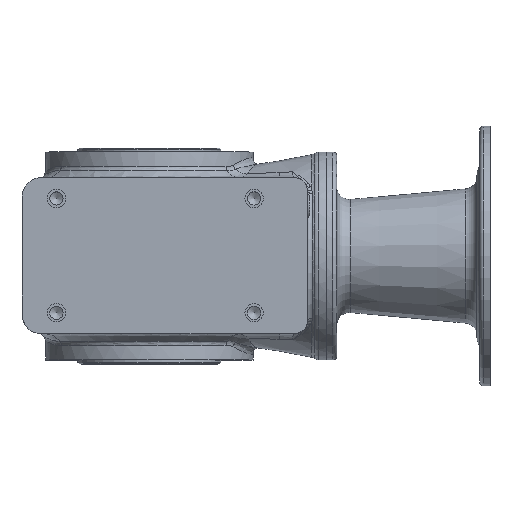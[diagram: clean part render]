
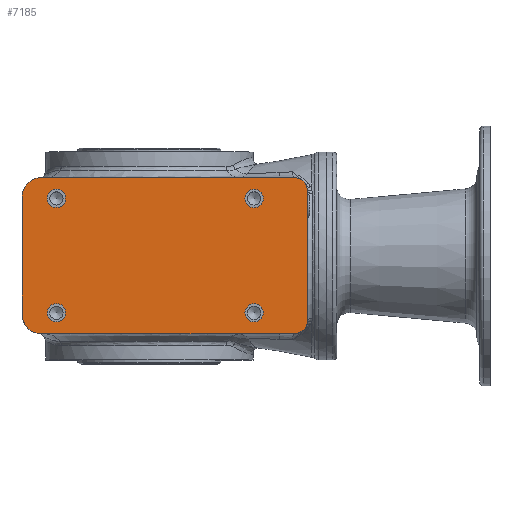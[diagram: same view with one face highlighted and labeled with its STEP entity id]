
A CAD part, front view. The second image highlights one B-rep face of the part: STEP entity #7185.
In plain terms, the highlighted planar face has unit normal (0, -1, 0.002).
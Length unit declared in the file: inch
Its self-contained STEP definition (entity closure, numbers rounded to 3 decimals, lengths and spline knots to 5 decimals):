
#744=FACE_BOUND('',#1706,.T.);
#745=FACE_BOUND('',#1707,.T.);
#746=FACE_BOUND('',#1708,.T.);
#747=FACE_BOUND('',#1709,.T.);
#1116=FACE_OUTER_BOUND('',#1705,.T.);
#1705=EDGE_LOOP('',(#5439,#5440,#5441,#5442,#5443,#5444,#5445,#5446));
#1706=EDGE_LOOP('',(#5447));
#1707=EDGE_LOOP('',(#5448));
#1708=EDGE_LOOP('',(#5449));
#1709=EDGE_LOOP('',(#5450));
#2223=LINE('',#13385,#2403);
#2229=LINE('',#16035,#2409);
#2232=LINE('',#16556,#2412);
#2233=LINE('',#16561,#2413);
#2403=VECTOR('',#8945,3.93701);
#2409=VECTOR('',#9081,3.54331);
#2412=VECTOR('',#9166,7.65748);
#2413=VECTOR('',#9171,7.65748);
#2731=CIRCLE('',#7852,0.3937);
#2732=CIRCLE('',#7854,0.59055);
#2733=CIRCLE('',#7855,0.59055);
#2734=CIRCLE('',#7856,0.3937);
#2735=CIRCLE('',#7857,0.27559);
#2736=CIRCLE('',#7858,0.27559);
#2737=CIRCLE('',#7859,0.27559);
#2738=CIRCLE('',#7860,0.27559);
#3198=VERTEX_POINT('',#13382);
#3199=VERTEX_POINT('',#13384);
#3273=VERTEX_POINT('',#16031);
#3275=VERTEX_POINT('',#16034);
#3318=VERTEX_POINT('',#16527);
#3319=VERTEX_POINT('',#16555);
#3320=VERTEX_POINT('',#16558);
#3321=VERTEX_POINT('',#16560);
#3322=VERTEX_POINT('',#16563);
#3323=VERTEX_POINT('',#16565);
#3324=VERTEX_POINT('',#16567);
#3325=VERTEX_POINT('',#16569);
#3939=EDGE_CURVE('',#3198,#3199,#2223,.T.);
#4051=EDGE_CURVE('',#3275,#3273,#2229,.T.);
#4110=EDGE_CURVE('',#3318,#3198,#2731,.T.);
#4112=EDGE_CURVE('',#3319,#3318,#2232,.T.);
#4113=EDGE_CURVE('',#3275,#3319,#2732,.T.);
#4114=EDGE_CURVE('',#3320,#3273,#2733,.T.);
#4115=EDGE_CURVE('',#3321,#3320,#2233,.T.);
#4116=EDGE_CURVE('',#3199,#3321,#2734,.T.);
#4117=EDGE_CURVE('',#3322,#3322,#2735,.T.);
#4118=EDGE_CURVE('',#3323,#3323,#2736,.T.);
#4119=EDGE_CURVE('',#3324,#3324,#2737,.T.);
#4120=EDGE_CURVE('',#3325,#3325,#2738,.T.);
#5439=ORIENTED_EDGE('',*,*,#4110,.F.);
#5440=ORIENTED_EDGE('',*,*,#4112,.F.);
#5441=ORIENTED_EDGE('',*,*,#4113,.F.);
#5442=ORIENTED_EDGE('',*,*,#4051,.T.);
#5443=ORIENTED_EDGE('',*,*,#4114,.F.);
#5444=ORIENTED_EDGE('',*,*,#4115,.F.);
#5445=ORIENTED_EDGE('',*,*,#4116,.F.);
#5446=ORIENTED_EDGE('',*,*,#3939,.F.);
#5447=ORIENTED_EDGE('',*,*,#4117,.T.);
#5448=ORIENTED_EDGE('',*,*,#4118,.T.);
#5449=ORIENTED_EDGE('',*,*,#4119,.T.);
#5450=ORIENTED_EDGE('',*,*,#4120,.T.);
#6428=PLANE('',#7853);
#7185=ADVANCED_FACE('',(#1116,#744,#745,#746,#747),#6428,.T.);
#7852=AXIS2_PLACEMENT_3D('',#16529,#9162,#9163);
#7853=AXIS2_PLACEMENT_3D('',#16554,#9164,#9165);
#7854=AXIS2_PLACEMENT_3D('',#16557,#9167,#9168);
#7855=AXIS2_PLACEMENT_3D('',#16559,#9169,#9170);
#7856=AXIS2_PLACEMENT_3D('',#16562,#9172,#9173);
#7857=AXIS2_PLACEMENT_3D('',#16564,#9174,#9175);
#7858=AXIS2_PLACEMENT_3D('',#16566,#9176,#9177);
#7859=AXIS2_PLACEMENT_3D('',#16568,#9178,#9179);
#7860=AXIS2_PLACEMENT_3D('',#16570,#9180,#9181);
#8945=DIRECTION('',(0.,-0.002,-1.));
#9081=DIRECTION('',(0.,-0.002,-1.));
#9162=DIRECTION('center_axis',(0.,1.,
-0.002));
#9163=DIRECTION('ref_axis',(0.707,0.002,0.707));
#9164=DIRECTION('center_axis',(0.,-1.,
0.002));
#9165=DIRECTION('ref_axis',(1.,0.,0.));
#9166=DIRECTION('',(1.,0.,0.));
#9167=DIRECTION('center_axis',(0.,1.,
-0.002));
#9168=DIRECTION('ref_axis',(-0.707,0.002,0.707));
#9169=DIRECTION('center_axis',(0.,1.,
-0.002));
#9170=DIRECTION('ref_axis',(-0.707,-0.002,-0.707));
#9171=DIRECTION('',(-1.,0.,0.));
#9172=DIRECTION('center_axis',(0.,1.,
-0.002));
#9173=DIRECTION('ref_axis',(0.707,-0.002,-0.707));
#9174=DIRECTION('center_axis',(0.,1.,
-0.002));
#9175=DIRECTION('ref_axis',(1.,0.,0.));
#9176=DIRECTION('center_axis',(0.,1.,
-0.002));
#9177=DIRECTION('ref_axis',(1.,0.,0.));
#9178=DIRECTION('center_axis',(0.,1.,
-0.002));
#9179=DIRECTION('ref_axis',(1.,0.,0.));
#9180=DIRECTION('center_axis',(0.,1.,
-0.002));
#9181=DIRECTION('ref_axis',(1.,0.,0.));
#13382=CARTESIAN_POINT('',(4.78238,-3.35107,1.80023));
#13384=CARTESIAN_POINT('',(4.78238,-3.3599,-2.13677));
#13385=CARTESIAN_POINT('',(4.78238,-3.35019,2.19393));
#16031=CARTESIAN_POINT('',(-3.85936,-3.35946,-1.93992));
#16034=CARTESIAN_POINT('',(-3.85936,-3.35151,1.60338));
#16035=CARTESIAN_POINT('',(-3.85936,-3.35548,-0.16827));
#16527=CARTESIAN_POINT('',(4.38868,-3.35019,2.19393));
#16529=CARTESIAN_POINT('Origin',(4.38868,-3.35107,1.80023));
#16554=CARTESIAN_POINT('Origin',(-4.21369,-3.35548,-0.16827));
#16555=CARTESIAN_POINT('',(-3.2688,-3.35019,2.19393));
#16556=CARTESIAN_POINT('',(3.92608,-3.35019,2.19393));
#16557=CARTESIAN_POINT('Origin',(-3.2688,-3.35151,1.60338));
#16558=CARTESIAN_POINT('',(-3.2688,-3.36078,-2.53047));
#16559=CARTESIAN_POINT('Origin',(-3.2688,-3.35946,-1.93992));
#16560=CARTESIAN_POINT('',(4.38868,-3.36078,-2.53047));
#16561=CARTESIAN_POINT('',(-4.21369,-3.36078,-2.53047));
#16562=CARTESIAN_POINT('Origin',(4.38868,-3.3599,-2.13677));
#16563=CARTESIAN_POINT('',(3.44379,-3.35937,-1.90055));
#16564=CARTESIAN_POINT('Origin',(3.1682,-3.35937,-1.90055));
#16565=CARTESIAN_POINT('',(3.44379,-3.3516,1.56401));
#16566=CARTESIAN_POINT('Origin',(3.1682,-3.3516,1.56401));
#16567=CARTESIAN_POINT('',(-2.54046,-3.3516,1.56401));
#16568=CARTESIAN_POINT('Origin',(-2.81605,-3.3516,1.56401));
#16569=CARTESIAN_POINT('',(-2.54046,-3.35937,-1.90055));
#16570=CARTESIAN_POINT('Origin',(-2.81605,-3.35937,-1.90055));
